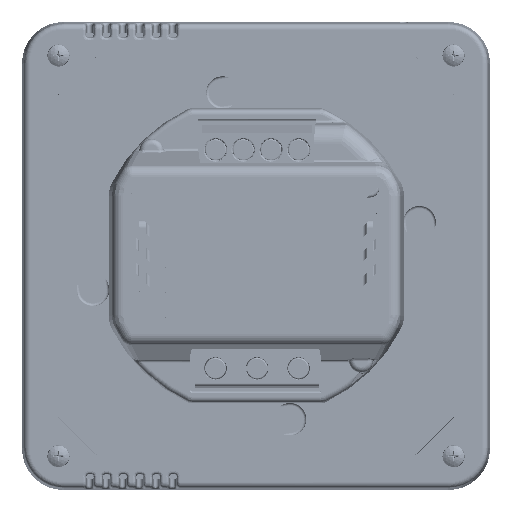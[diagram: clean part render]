
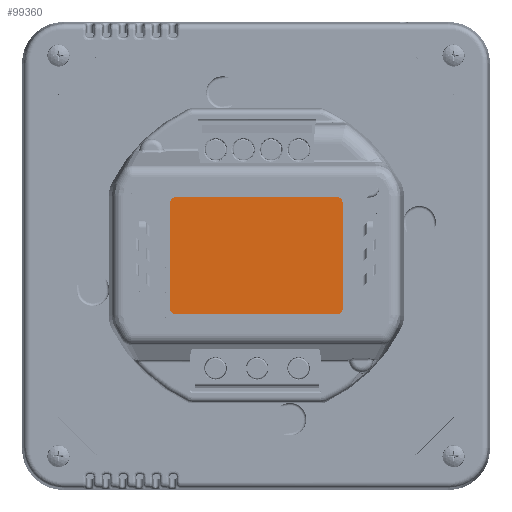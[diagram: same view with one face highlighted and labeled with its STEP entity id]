
A CAD part, top view. The second image highlights one B-rep face of the part: STEP entity #99360.
In plain terms, the highlighted planar face has unit normal (0, 0, 1) as drawn and (0, 0, -1) by its records, which use the part's own axes.
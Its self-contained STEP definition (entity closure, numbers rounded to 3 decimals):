
#9218=CIRCLE('',#105969,0.996);
#9219=CIRCLE('',#105972,0.996);
#9220=CIRCLE('',#105975,0.996);
#9221=CIRCLE('',#105978,0.996);
#13459=FACE_OUTER_BOUND('',#19368,.T.);
#19368=EDGE_LOOP('',(#76435,#76436,#76437,#76438,#76439,#76440,#76441,#76442));
#27889=LINE('',#162808,#36549);
#27892=LINE('',#162816,#36552);
#27895=LINE('',#162824,#36555);
#27897=LINE('',#162830,#36557);
#36549=VECTOR('',#120018,10.);
#36552=VECTOR('',#120027,10.);
#36555=VECTOR('',#120036,10.);
#36557=VECTOR('',#120044,10.);
#45477=VERTEX_POINT('',#162800);
#45478=VERTEX_POINT('',#162801);
#45479=VERTEX_POINT('',#162806);
#45480=VERTEX_POINT('',#162810);
#45481=VERTEX_POINT('',#162811);
#45482=VERTEX_POINT('',#162818);
#45483=VERTEX_POINT('',#162819);
#45484=VERTEX_POINT('',#162826);
#57497=EDGE_CURVE('',#45477,#45478,#9218,.T.);
#57501=EDGE_CURVE('',#45478,#45479,#27889,.F.);
#57502=EDGE_CURVE('',#45480,#45481,#9219,.T.);
#57505=EDGE_CURVE('',#45481,#45477,#27892,.F.);
#57506=EDGE_CURVE('',#45482,#45483,#9220,.T.);
#57509=EDGE_CURVE('',#45483,#45480,#27895,.F.);
#57510=EDGE_CURVE('',#45479,#45484,#9221,.T.);
#57512=EDGE_CURVE('',#45484,#45482,#27897,.F.);
#76435=ORIENTED_EDGE('',*,*,#57497,.T.);
#76436=ORIENTED_EDGE('',*,*,#57501,.T.);
#76437=ORIENTED_EDGE('',*,*,#57510,.T.);
#76438=ORIENTED_EDGE('',*,*,#57512,.T.);
#76439=ORIENTED_EDGE('',*,*,#57506,.T.);
#76440=ORIENTED_EDGE('',*,*,#57509,.T.);
#76441=ORIENTED_EDGE('',*,*,#57502,.T.);
#76442=ORIENTED_EDGE('',*,*,#57505,.T.);
#96198=PLANE('',#105980);
#99360=ADVANCED_FACE('',(#13459),#96198,.F.);
#105969=AXIS2_PLACEMENT_3D('',#162802,#120011,#120012);
#105972=AXIS2_PLACEMENT_3D('',#162812,#120021,#120022);
#105975=AXIS2_PLACEMENT_3D('',#162820,#120030,#120031);
#105978=AXIS2_PLACEMENT_3D('',#162827,#120039,#120040);
#105980=AXIS2_PLACEMENT_3D('',#162831,#120045,#120046);
#120011=DIRECTION('center_axis',(0.,0.,-1.));
#120012=DIRECTION('ref_axis',(-1.,0.,0.));
#120018=DIRECTION('',(-1.,0.,0.));
#120021=DIRECTION('center_axis',(0.,0.,-1.));
#120022=DIRECTION('ref_axis',(-1.,0.,0.));
#120027=DIRECTION('',(0.,-1.,0.));
#120030=DIRECTION('center_axis',(0.,0.,-1.));
#120031=DIRECTION('ref_axis',(0.,-1.,0.));
#120036=DIRECTION('',(1.,0.,0.));
#120039=DIRECTION('center_axis',(0.,0.,-1.));
#120040=DIRECTION('ref_axis',(0.,1.,0.));
#120044=DIRECTION('',(0.,1.,0.));
#120045=DIRECTION('center_axis',(0.,0.,1.));
#120046=DIRECTION('ref_axis',(1.,0.,0.));
#162800=CARTESIAN_POINT('',(-15.57,9.574,-23.3));
#162801=CARTESIAN_POINT('',(-14.574,10.57,-23.3));
#162802=CARTESIAN_POINT('Origin',(-14.574,9.574,-23.3));
#162806=CARTESIAN_POINT('',(14.574,10.57,-23.3));
#162808=CARTESIAN_POINT('',(-7.25,10.57,-23.3));
#162810=CARTESIAN_POINT('',(-14.574,-10.57,-23.3));
#162811=CARTESIAN_POINT('',(-15.57,-9.574,-23.3));
#162812=CARTESIAN_POINT('Origin',(-14.574,-9.574,-23.3));
#162816=CARTESIAN_POINT('',(-15.57,-4.75,-23.3));
#162818=CARTESIAN_POINT('',(15.57,-9.574,-23.3));
#162819=CARTESIAN_POINT('',(14.574,-10.57,-23.3));
#162820=CARTESIAN_POINT('Origin',(14.574,-9.574,-23.3));
#162824=CARTESIAN_POINT('',(7.25,-10.57,-23.3));
#162826=CARTESIAN_POINT('',(15.57,9.574,-23.3));
#162827=CARTESIAN_POINT('Origin',(14.574,9.574,-23.3));
#162830=CARTESIAN_POINT('',(15.57,4.75,-23.3));
#162831=CARTESIAN_POINT('Origin',(0.,0.,-23.3));
